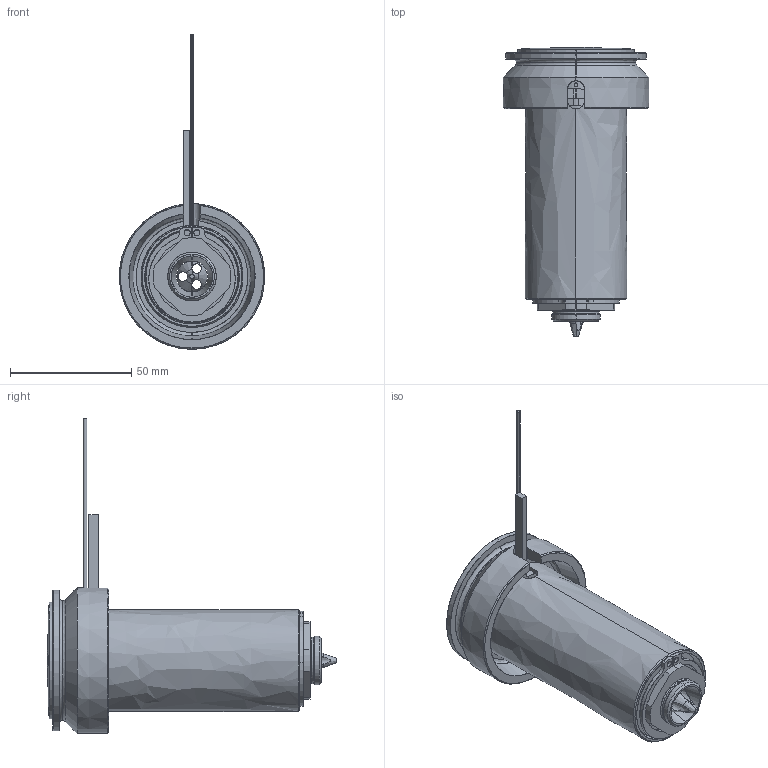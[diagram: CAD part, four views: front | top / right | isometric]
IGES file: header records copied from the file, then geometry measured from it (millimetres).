
Start section: SolidWorks IGES file using analytic representation for surfaces
Global section: file name: C:\Documents and Settings\ws-20\Desktop\TEM\UGEP6004-M-A-0 [Øf-1.9 ØC-17].IGS; native system: SolidWorks 2012; preprocessor: SolidWorks 2012; author: ws-20; date: 120427.094636; units: millimetre
Bounding box: 60 x 119.05 x 129.65 mm (x, y, z)
Surface area: 58900 mm2 (no closed solid volume)
Topology: 0 solids, 0 shells, 129 faces, 2315 edges, 2315 vertices
Faces by surface type: revolution 83, bspline 46
